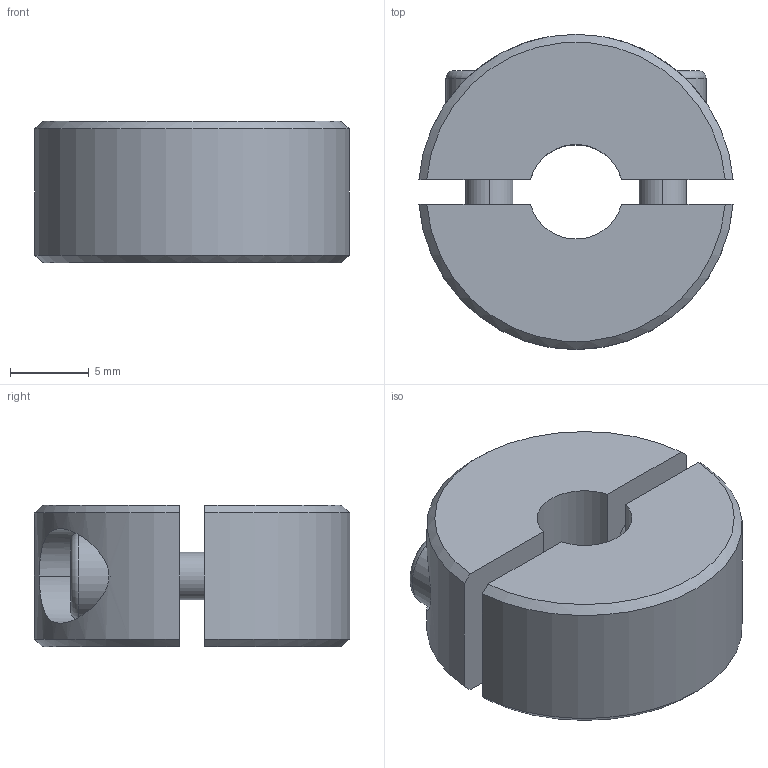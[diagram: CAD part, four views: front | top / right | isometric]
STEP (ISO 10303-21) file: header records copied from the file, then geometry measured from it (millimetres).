
FILE_DESCRIPTION (( 'STEP AP214' ), '1' );
FILE_NAME ('707.2-20-B6-A4.step', '2023-02-09T07:05:03', ( '' ), ( '' ), 'SwSTEP 2.0', 'SolidWorks 2022', '' );
FILE_SCHEMA (( 'AUTOMOTIVE_DESIGN' ));
Length unit declared in the file: millimetre
Products named in the file (1): 707.2-20-B6-A4
Bounding box: 19.94 x 20 x 9 mm (x, y, z)
Volume: 2282.9 mm3; surface area: 1862 mm2
Topology: 1 solids, 1 shells, 64 faces, 148 edges, 96 vertices
Faces by surface type: plane 28, cylinder 24, cone 8, torus 4
Entity records: 2101 total; most frequent: CARTESIAN_POINT 469, DIRECTION 326, ORIENTED_EDGE 296, EDGE_CURVE 148, AXIS2_PLACEMENT_3D 125, VERTEX_POINT 96, EDGE_LOOP 76, LINE 76
